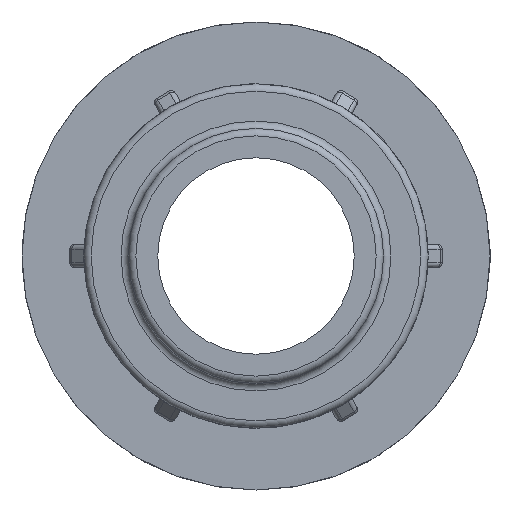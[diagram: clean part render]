
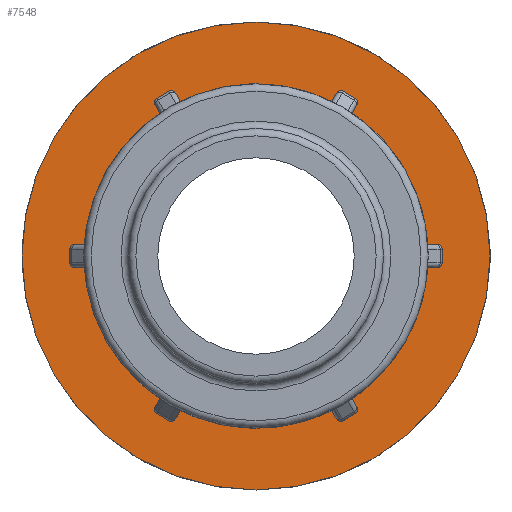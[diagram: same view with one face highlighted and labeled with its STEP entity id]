
A CAD part, left-side view. The second image highlights one B-rep face of the part: STEP entity #7548.
In plain terms, the highlighted planar face has unit normal (-1, 0, 0).
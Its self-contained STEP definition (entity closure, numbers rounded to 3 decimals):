
#26=FACE_BOUND('',#1424,.T.);
#113=ELLIPSE('',#7628,0.905,0.64);
#114=ELLIPSE('',#7649,0.905,0.64);
#117=ELLIPSE('',#7744,0.905,0.64);
#118=ELLIPSE('',#7765,0.905,0.64);
#121=ELLIPSE('',#7860,0.905,0.64);
#122=ELLIPSE('',#7881,0.905,0.64);
#125=ELLIPSE('',#7976,0.905,0.64);
#126=ELLIPSE('',#7997,0.905,0.64);
#129=ELLIPSE('',#8092,0.905,0.64);
#130=ELLIPSE('',#8113,0.905,0.64);
#134=ELLIPSE('',#8383,0.905,0.64);
#135=ELLIPSE('',#8404,0.905,0.64);
#288=PLANE('',#8471);
#943=FACE_OUTER_BOUND('',#1423,.T.);
#1423=EDGE_LOOP('',(#6832));
#1424=EDGE_LOOP('',(#6833,#6834,#6835,#6836,#6837,#6838,#6839,#6840,#6841,
#6842,#6843,#6844,#6845,#6846,#6847,#6848,#6849,#6850,#6851,#6852,#6853,
#6854,#6855,#6856));
#1476=LINE('',#11111,#1926);
#1535=LINE('',#11586,#1985);
#1594=LINE('',#12061,#2044);
#1653=LINE('',#12536,#2103);
#1712=LINE('',#13011,#2162);
#1859=LINE('',#14361,#2309);
#1926=VECTOR('',#8664,1.77);
#1985=VECTOR('',#8955,1.77);
#2044=VECTOR('',#9246,1.77);
#2103=VECTOR('',#9537,1.77);
#2162=VECTOR('',#9828,1.77);
#2309=VECTOR('',#10557,1.77);
#2755=CIRCLE('',#8309,21.749);
#2756=CIRCLE('',#8311,21.749);
#2757=CIRCLE('',#8313,21.749);
#2758=CIRCLE('',#8315,21.749);
#2759=CIRCLE('',#8317,21.749);
#2842=CIRCLE('',#8472,30.5);
#2843=CIRCLE('',#8473,21.749);
#2907=VERTEX_POINT('',#11091);
#2908=VERTEX_POINT('',#11103);
#2910=VERTEX_POINT('',#11109);
#2923=VERTEX_POINT('',#11166);
#2996=VERTEX_POINT('',#11566);
#2997=VERTEX_POINT('',#11578);
#2999=VERTEX_POINT('',#11584);
#3012=VERTEX_POINT('',#11641);
#3085=VERTEX_POINT('',#12041);
#3086=VERTEX_POINT('',#12053);
#3088=VERTEX_POINT('',#12059);
#3101=VERTEX_POINT('',#12116);
#3174=VERTEX_POINT('',#12516);
#3175=VERTEX_POINT('',#12528);
#3177=VERTEX_POINT('',#12534);
#3190=VERTEX_POINT('',#12591);
#3263=VERTEX_POINT('',#12991);
#3264=VERTEX_POINT('',#13003);
#3266=VERTEX_POINT('',#13009);
#3279=VERTEX_POINT('',#13066);
#3435=VERTEX_POINT('',#14105);
#3482=VERTEX_POINT('',#14341);
#3483=VERTEX_POINT('',#14353);
#3485=VERTEX_POINT('',#14359);
#3521=VERTEX_POINT('',#14555);
#3611=EDGE_CURVE('',#2908,#2907,#113,.F.);
#3614=EDGE_CURVE('',#2908,#2910,#1476,.T.);
#3639=EDGE_CURVE('',#2910,#2923,#114,.T.);
#3753=EDGE_CURVE('',#2997,#2996,#117,.F.);
#3756=EDGE_CURVE('',#2997,#2999,#1535,.T.);
#3781=EDGE_CURVE('',#2999,#3012,#118,.T.);
#3895=EDGE_CURVE('',#3086,#3085,#121,.F.);
#3898=EDGE_CURVE('',#3086,#3088,#1594,.T.);
#3923=EDGE_CURVE('',#3088,#3101,#122,.T.);
#4037=EDGE_CURVE('',#3175,#3174,#125,.F.);
#4040=EDGE_CURVE('',#3175,#3177,#1653,.T.);
#4065=EDGE_CURVE('',#3177,#3190,#126,.T.);
#4179=EDGE_CURVE('',#3264,#3263,#129,.F.);
#4182=EDGE_CURVE('',#3264,#3266,#1712,.T.);
#4207=EDGE_CURVE('',#3266,#3279,#130,.T.);
#4483=EDGE_CURVE('',#3263,#3435,#2755,.F.);
#4486=EDGE_CURVE('',#3279,#3174,#2756,.T.);
#4487=EDGE_CURVE('',#3190,#3085,#2757,.T.);
#4488=EDGE_CURVE('',#3101,#2996,#2758,.T.);
#4489=EDGE_CURVE('',#3012,#2907,#2759,.T.);
#4567=EDGE_CURVE('',#3483,#3482,#134,.F.);
#4570=EDGE_CURVE('',#3483,#3485,#1859,.T.);
#4594=EDGE_CURVE('',#3485,#3435,#135,.T.);
#4644=EDGE_CURVE('',#3521,#3521,#2842,.T.);
#4645=EDGE_CURVE('',#2923,#3482,#2843,.T.);
#6832=ORIENTED_EDGE('',*,*,#4644,.F.);
#6833=ORIENTED_EDGE('',*,*,#4645,.T.);
#6834=ORIENTED_EDGE('',*,*,#4567,.F.);
#6835=ORIENTED_EDGE('',*,*,#4570,.T.);
#6836=ORIENTED_EDGE('',*,*,#4594,.T.);
#6837=ORIENTED_EDGE('',*,*,#4483,.F.);
#6838=ORIENTED_EDGE('',*,*,#4179,.F.);
#6839=ORIENTED_EDGE('',*,*,#4182,.T.);
#6840=ORIENTED_EDGE('',*,*,#4207,.T.);
#6841=ORIENTED_EDGE('',*,*,#4486,.T.);
#6842=ORIENTED_EDGE('',*,*,#4037,.F.);
#6843=ORIENTED_EDGE('',*,*,#4040,.T.);
#6844=ORIENTED_EDGE('',*,*,#4065,.T.);
#6845=ORIENTED_EDGE('',*,*,#4487,.T.);
#6846=ORIENTED_EDGE('',*,*,#3895,.F.);
#6847=ORIENTED_EDGE('',*,*,#3898,.T.);
#6848=ORIENTED_EDGE('',*,*,#3923,.T.);
#6849=ORIENTED_EDGE('',*,*,#4488,.T.);
#6850=ORIENTED_EDGE('',*,*,#3753,.F.);
#6851=ORIENTED_EDGE('',*,*,#3756,.T.);
#6852=ORIENTED_EDGE('',*,*,#3781,.T.);
#6853=ORIENTED_EDGE('',*,*,#4489,.T.);
#6854=ORIENTED_EDGE('',*,*,#3611,.F.);
#6855=ORIENTED_EDGE('',*,*,#3614,.T.);
#6856=ORIENTED_EDGE('',*,*,#3639,.T.);
#7548=ADVANCED_FACE('',(#943,#26),#288,.T.);
#7628=AXIS2_PLACEMENT_3D('',#11105,#8658,#8659);
#7649=AXIS2_PLACEMENT_3D('',#11167,#8720,#8721);
#7744=AXIS2_PLACEMENT_3D('',#11580,#8949,#8950);
#7765=AXIS2_PLACEMENT_3D('',#11642,#9011,#9012);
#7860=AXIS2_PLACEMENT_3D('',#12055,#9240,#9241);
#7881=AXIS2_PLACEMENT_3D('',#12117,#9302,#9303);
#7976=AXIS2_PLACEMENT_3D('',#12530,#9531,#9532);
#7997=AXIS2_PLACEMENT_3D('',#12592,#9593,#9594);
#8092=AXIS2_PLACEMENT_3D('',#13005,#9822,#9823);
#8113=AXIS2_PLACEMENT_3D('',#13067,#9884,#9885);
#8309=AXIS2_PLACEMENT_3D('',#14106,#10371,#10372);
#8311=AXIS2_PLACEMENT_3D('',#14122,#10375,#10376);
#8313=AXIS2_PLACEMENT_3D('',#14124,#10379,#10380);
#8315=AXIS2_PLACEMENT_3D('',#14126,#10383,#10384);
#8317=AXIS2_PLACEMENT_3D('',#14128,#10387,#10388);
#8383=AXIS2_PLACEMENT_3D('',#14355,#10551,#10552);
#8404=AXIS2_PLACEMENT_3D('',#14409,#10613,#10614);
#8471=AXIS2_PLACEMENT_3D('',#14554,#10762,#10763);
#8472=AXIS2_PLACEMENT_3D('',#14556,#10764,#10765);
#8473=AXIS2_PLACEMENT_3D('',#14557,#10766,#10767);
#8658=DIRECTION('center_axis',(1.,0.,0.));
#8659=DIRECTION('ref_axis',(0.,0.5,-0.866));
#8664=DIRECTION('',(0.,0.866,0.5));
#8720=DIRECTION('center_axis',(1.,0.,0.));
#8721=DIRECTION('ref_axis',(0.,0.5,-0.866));
#8949=DIRECTION('center_axis',(1.,0.,0.));
#8950=DIRECTION('ref_axis',(0.,-0.5,-0.866));
#8955=DIRECTION('',(0.,0.866,-0.5));
#9011=DIRECTION('center_axis',(1.,0.,0.));
#9012=DIRECTION('ref_axis',(0.,-0.5,-0.866));
#9240=DIRECTION('center_axis',(1.,0.,0.));
#9241=DIRECTION('ref_axis',(0.,-1.,0.));
#9246=DIRECTION('',(0.,0.,-1.));
#9302=DIRECTION('center_axis',(1.,0.,0.));
#9303=DIRECTION('ref_axis',(0.,-1.,0.));
#9531=DIRECTION('center_axis',(1.,0.,0.));
#9532=DIRECTION('ref_axis',(0.,-0.5,0.866));
#9537=DIRECTION('',(0.,-0.866,-0.5));
#9593=DIRECTION('center_axis',(1.,0.,0.));
#9594=DIRECTION('ref_axis',(0.,-0.5,0.866));
#9822=DIRECTION('center_axis',(1.,0.,0.));
#9823=DIRECTION('ref_axis',(0.,0.5,0.866));
#9828=DIRECTION('',(0.,-0.866,0.5));
#9884=DIRECTION('center_axis',(1.,0.,0.));
#9885=DIRECTION('ref_axis',(0.,0.5,0.866));
#10371=DIRECTION('center_axis',(1.,0.,0.));
#10372=DIRECTION('ref_axis',(0.,1.,0.));
#10375=DIRECTION('center_axis',(1.,0.,0.));
#10376=DIRECTION('ref_axis',(0.,1.,0.));
#10379=DIRECTION('center_axis',(1.,0.,0.));
#10380=DIRECTION('ref_axis',(0.,1.,0.));
#10383=DIRECTION('center_axis',(1.,0.,0.));
#10384=DIRECTION('ref_axis',(0.,1.,0.));
#10387=DIRECTION('center_axis',(1.,0.,0.));
#10388=DIRECTION('ref_axis',(0.,1.,0.));
#10551=DIRECTION('center_axis',(1.,0.,0.));
#10552=DIRECTION('ref_axis',(0.,1.,0.));
#10557=DIRECTION('',(0.,0.,1.));
#10613=DIRECTION('center_axis',(1.,0.,0.));
#10614=DIRECTION('ref_axis',(0.,1.,0.));
#10762=DIRECTION('center_axis',(-1.,0.,0.));
#10763=DIRECTION('ref_axis',(0.,0.,1.));
#10764=DIRECTION('center_axis',(1.,0.,0.));
#10765=DIRECTION('ref_axis',(0.,0.,-1.));
#10766=DIRECTION('center_axis',(1.,0.,0.));
#10767=DIRECTION('ref_axis',(0.,1.,0.));
#11091=CARTESIAN_POINT('',(23.7,9.968,-19.331));
#11103=CARTESIAN_POINT('',(23.7,10.108,-19.278));
#11105=CARTESIAN_POINT('Origin',(23.7,9.656,-18.494));
#11109=CARTESIAN_POINT('',(23.7,11.641,-18.393));
#11111=CARTESIAN_POINT('',(23.7,22.312,-12.232));
#11166=CARTESIAN_POINT('',(23.7,11.757,-18.298));
#11167=CARTESIAN_POINT('Origin',(23.7,11.189,-17.609));
#11566=CARTESIAN_POINT('',(23.7,-11.757,-18.298));
#11578=CARTESIAN_POINT('',(23.7,-11.641,-18.393));
#11580=CARTESIAN_POINT('Origin',(23.7,-11.189,-17.609));
#11584=CARTESIAN_POINT('',(23.7,-10.108,-19.278));
#11586=CARTESIAN_POINT('',(23.7,0.563,-25.439));
#11641=CARTESIAN_POINT('',(23.7,-9.968,-19.331));
#11642=CARTESIAN_POINT('Origin',(23.7,-9.656,-18.494));
#12041=CARTESIAN_POINT('',(23.7,-21.725,1.033));
#12053=CARTESIAN_POINT('',(23.7,-21.749,0.885));
#12055=CARTESIAN_POINT('Origin',(23.7,-20.844,0.885));
#12059=CARTESIAN_POINT('',(23.7,-21.749,-0.885));
#12061=CARTESIAN_POINT('',(23.7,-21.749,0.));
#12116=CARTESIAN_POINT('',(23.7,-21.725,-1.033));
#12117=CARTESIAN_POINT('Origin',(23.7,-20.844,-0.885));
#12516=CARTESIAN_POINT('',(23.7,-9.968,19.331));
#12528=CARTESIAN_POINT('',(23.7,-10.108,19.278));
#12530=CARTESIAN_POINT('Origin',(23.7,-9.656,18.494));
#12534=CARTESIAN_POINT('',(23.7,-11.641,18.393));
#12536=CARTESIAN_POINT('',(23.7,0.563,25.439));
#12591=CARTESIAN_POINT('',(23.7,-11.757,18.298));
#12592=CARTESIAN_POINT('Origin',(23.7,-11.189,17.609));
#12991=CARTESIAN_POINT('',(23.7,11.757,18.298));
#13003=CARTESIAN_POINT('',(23.7,11.641,18.393));
#13005=CARTESIAN_POINT('Origin',(23.7,11.189,17.609));
#13009=CARTESIAN_POINT('',(23.7,10.108,19.278));
#13011=CARTESIAN_POINT('',(23.7,22.312,12.232));
#13066=CARTESIAN_POINT('',(23.7,9.968,19.331));
#13067=CARTESIAN_POINT('Origin',(23.7,9.656,18.494));
#14105=CARTESIAN_POINT('',(23.7,21.725,1.033));
#14106=CARTESIAN_POINT('Origin',(23.7,0.,0.));
#14122=CARTESIAN_POINT('Origin',(23.7,0.,0.));
#14124=CARTESIAN_POINT('Origin',(23.7,0.,0.));
#14126=CARTESIAN_POINT('Origin',(23.7,0.,0.));
#14128=CARTESIAN_POINT('Origin',(23.7,0.,0.));
#14341=CARTESIAN_POINT('',(23.7,21.725,-1.033));
#14353=CARTESIAN_POINT('',(23.7,21.749,-0.885));
#14355=CARTESIAN_POINT('Origin',(23.7,20.844,-0.885));
#14359=CARTESIAN_POINT('',(23.7,21.749,0.885));
#14361=CARTESIAN_POINT('',(23.7,21.749,0.));
#14409=CARTESIAN_POINT('Origin',(23.7,20.844,0.885));
#14554=CARTESIAN_POINT('Origin',(23.7,30.5,0.));
#14555=CARTESIAN_POINT('',(23.7,30.5,0.));
#14556=CARTESIAN_POINT('Origin',(23.7,0.,0.));
#14557=CARTESIAN_POINT('Origin',(23.7,0.,0.));
